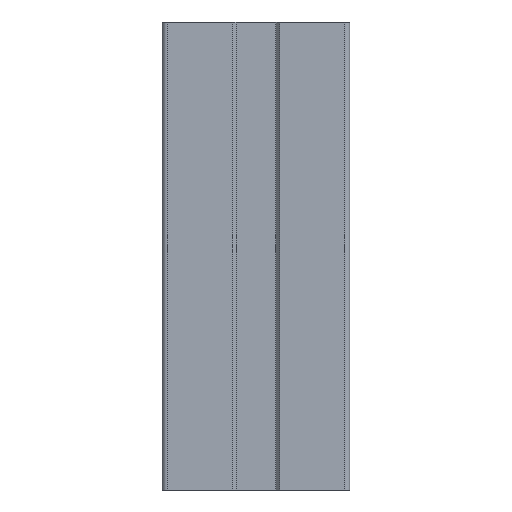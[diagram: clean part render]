
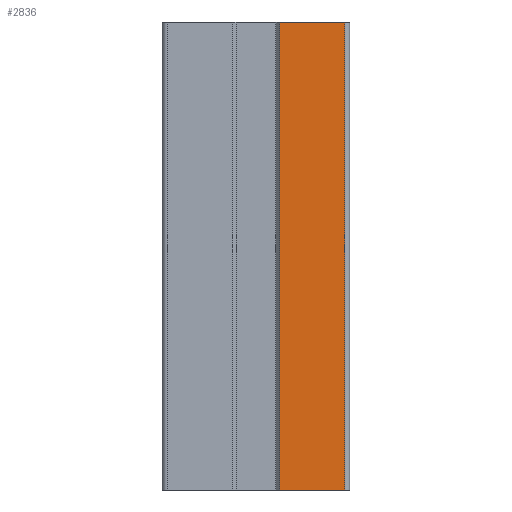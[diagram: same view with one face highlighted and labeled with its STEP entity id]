
A CAD part, left-side view. The second image highlights one B-rep face of the part: STEP entity #2836.
In plain terms, the highlighted planar face has unit normal (-1, 0, 0).
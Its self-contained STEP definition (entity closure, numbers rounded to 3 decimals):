
#1193=CARTESIAN_POINT('',(-20.,-5.05,100.0));
#1194=VERTEX_POINT('',#1193);
#1201=CARTESIAN_POINT('',(-20.,-19.0,100.0));
#1202=VERTEX_POINT('',#1201);
#1203=CARTESIAN_POINT('',(-20.,-19.0,100.0));
#1204=DIRECTION('',(0.0,1.0,0.0));
#1205=VECTOR('',#1204,13.95);
#1206=LINE('',#1203,#1205);
#1207=EDGE_CURVE('',#1202,#1194,#1206,.T.);
#1851=CARTESIAN_POINT('',(-20.,-19.0,0.0));
#1852=VERTEX_POINT('',#1851);
#1860=CARTESIAN_POINT('',(-20.,-5.05,0.0));
#1861=VERTEX_POINT('',#1860);
#1862=CARTESIAN_POINT('',(-20.,-5.05,0.0));
#1863=DIRECTION('',(0.0,-1.0,0.0));
#1864=VECTOR('',#1863,13.95);
#1865=LINE('',#1862,#1864);
#1866=EDGE_CURVE('',#1861,#1852,#1865,.T.);
#2724=CARTESIAN_POINT('',(-20.,-5.05,100.0));
#2725=DIRECTION('',(0.0,0.0,-1.0));
#2726=VECTOR('',#2725,100.0);
#2727=LINE('',#2724,#2726);
#2728=EDGE_CURVE('',#1194,#1861,#2727,.T.);
#2820=CARTESIAN_POINT('',(-20.,-20.0,0.0));
#2821=DIRECTION('',(-1.0,0.0,0.0));
#2822=DIRECTION('',(0.0,0.0,1.0));
#2823=AXIS2_PLACEMENT_3D('',#2820,#2821,#2822);
#2824=PLANE('',#2823);
#2825=ORIENTED_EDGE('',*,*,#2728,.T.);
#2826=ORIENTED_EDGE('',*,*,#1866,.T.);
#2827=CARTESIAN_POINT('',(-20.,-19.0,100.0));
#2828=DIRECTION('',(0.0,0.0,-1.0));
#2829=VECTOR('',#2828,100.0);
#2830=LINE('',#2827,#2829);
#2831=EDGE_CURVE('',#1202,#1852,#2830,.T.);
#2832=ORIENTED_EDGE('',*,*,#2831,.F.);
#2833=ORIENTED_EDGE('',*,*,#1207,.T.);
#2834=EDGE_LOOP('',(#2825,#2826,#2832,#2833));
#2835=FACE_OUTER_BOUND('',#2834,.T.);
#2836=ADVANCED_FACE('',(#2835),#2824,.T.);
